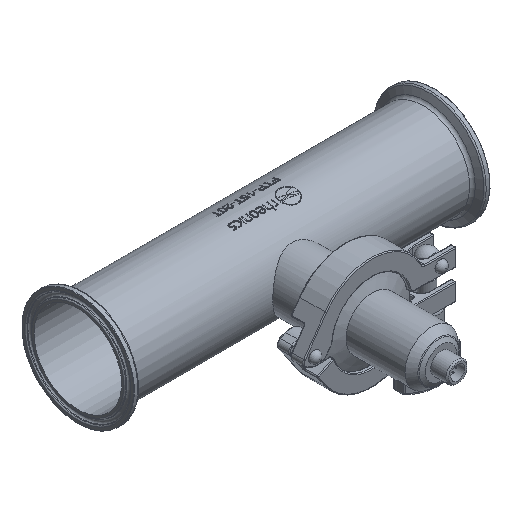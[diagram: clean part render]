
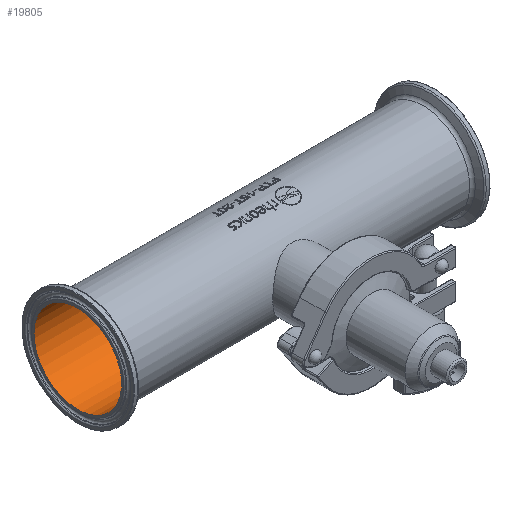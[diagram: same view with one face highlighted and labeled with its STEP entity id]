
A CAD part, isometric view. The second image highlights one B-rep face of the part: STEP entity #19805.
In plain terms, the highlighted cylindrical face has radius 25 mm (diameter 50 mm), a full revolution.
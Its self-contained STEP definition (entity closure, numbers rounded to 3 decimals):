
#916=CIRCLE('',#20841,25.);
#917=CIRCLE('',#20842,25.);
#3183=ORIENTED_EDGE('',*,*,#7740,.F.);
#3184=ORIENTED_EDGE('',*,*,#7741,.F.);
#3185=ORIENTED_EDGE('',*,*,#7742,.F.);
#7740=EDGE_CURVE('',#10019,#10019,#916,.T.);
#7741=EDGE_CURVE('',#10020,#10020,#917,.T.);
#7742=EDGE_CURVE('',#10021,#10021,#11502,.T.);
#10019=VERTEX_POINT('',#25879);
#10020=VERTEX_POINT('',#25881);
#10021=VERTEX_POINT('',#25909);
#11502=B_SPLINE_CURVE_WITH_KNOTS('',3,(#25882,#25883,#25884,#25885,#25886,
#25887,#25888,#25889,#25890,#25891,#25892,#25893,#25894,#25895,#25896,#25897,
#25898,#25899,#25900,#25901,#25902,#25903,#25904,#25905,#25906,#25907,#25908),
 .UNSPECIFIED.,.T.,.F.,(1,1,1,1,1,1,1,1,1,1,1,1,1,1,1,1,1,1,1,1,1,1,1,1,
1,1,1,1,1,1,1),(-0.009,-0.006,-0.003,
0.,0.006,0.012,0.015,
0.018,0.021,0.024,0.027,
0.03,0.036,0.039,0.042,
0.048,0.053,0.059,0.062,
0.065,0.068,0.071,0.077,
0.083,0.086,0.089,0.092,
0.095,0.101,0.107,0.11),
 .UNSPECIFIED.);
#12280=EDGE_LOOP('',(#3183));
#12281=EDGE_LOOP('',(#3184));
#12282=EDGE_LOOP('',(#3185));
#13514=FACE_BOUND('',#12280,.T.);
#13515=FACE_BOUND('',#12281,.T.);
#13516=FACE_BOUND('',#12282,.T.);
#14732=CYLINDRICAL_SURFACE('',#20840,25.);
#19805=ADVANCED_FACE('',(#13514,#13515,#13516),#14732,.F.);
#20840=AXIS2_PLACEMENT_3D('',#25877,#22109,#22110);
#20841=AXIS2_PLACEMENT_3D('',#25878,#22111,#22112);
#20842=AXIS2_PLACEMENT_3D('',#25880,#22113,#22114);
#22109=DIRECTION('',(-1.,0.,0.));
#22110=DIRECTION('',(0.,1.,0.));
#22111=DIRECTION('',(-1.,0.,0.));
#22112=DIRECTION('',(0.,-0.382,0.924));
#22113=DIRECTION('',(1.,0.,0.));
#22114=DIRECTION('',(0.,0.079,-0.997));
#25877=CARTESIAN_POINT('',(43.,51.,0.));
#25878=CARTESIAN_POINT('',(144.5,51.,0.));
#25879=CARTESIAN_POINT('',(144.5,41.454,23.106));
#25880=CARTESIAN_POINT('',(-58.5,51.,0.));
#25881=CARTESIAN_POINT('',(-58.5,52.969,-24.922));
#25882=CARTESIAN_POINT('',(45.986,30.737,-14.649));
#25883=CARTESIAN_POINT('',(42.003,31.044,-15.054));
#25884=CARTESIAN_POINT('',(37.046,30.246,-14.02));
#25885=CARTESIAN_POINT('',(33.077,28.623,-11.332));
#25886=CARTESIAN_POINT('',(30.629,27.401,-8.378));
#25887=CARTESIAN_POINT('',(29.252,26.644,-5.863));
#25888=CARTESIAN_POINT('',(28.357,26.124,-3.012));
#25889=CARTESIAN_POINT('',(28.05,25.94,-0.057));
#25890=CARTESIAN_POINT('',(28.342,26.115,2.95));
#25891=CARTESIAN_POINT('',(29.515,26.797,6.74));
#25892=CARTESIAN_POINT('',(31.692,27.985,9.952));
#25893=CARTESIAN_POINT('',(34.638,29.255,12.38));
#25894=CARTESIAN_POINT('',(37.975,30.391,14.206));
#25895=CARTESIAN_POINT('',(42.955,31.213,15.269));
#25896=CARTESIAN_POINT('',(48.932,30.252,14.031));
#25897=CARTESIAN_POINT('',(52.913,28.628,11.341));
#25898=CARTESIAN_POINT('',(55.367,27.404,8.387));
#25899=CARTESIAN_POINT('',(56.748,26.644,5.862));
#25900=CARTESIAN_POINT('',(57.643,26.124,3.015));
#25901=CARTESIAN_POINT('',(58.056,25.876,-0.955));
#25902=CARTESIAN_POINT('',(57.028,26.499,-5.961));
#25903=CARTESIAN_POINT('',(54.291,27.994,-9.971));
#25904=CARTESIAN_POINT('',(51.332,29.267,-12.402));
#25905=CARTESIAN_POINT('',(48.821,30.116,-13.764));
#25906=CARTESIAN_POINT('',(45.986,30.737,-14.649));
#25907=CARTESIAN_POINT('',(42.003,31.044,-15.054));
#25908=CARTESIAN_POINT('',(37.046,30.246,-14.02));
#25909=CARTESIAN_POINT('',(43.,30.888,-14.85));
